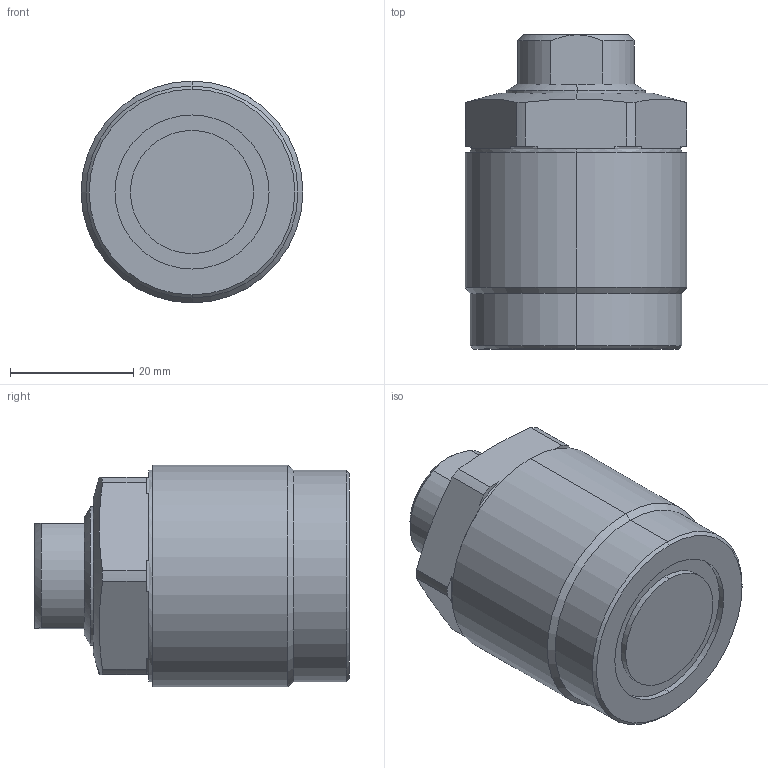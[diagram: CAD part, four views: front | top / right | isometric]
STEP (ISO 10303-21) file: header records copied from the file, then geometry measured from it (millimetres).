
FILE_DESCRIPTION (( 'STEP AP203' ), '1' );
FILE_NAME ('T03C-M364-S threaded pusher.STEP', '2022-07-09T17:42:46', ( '' ), ( '' ), 'SwSTEP 2.0', 'SolidWorks 2017', '' );
FILE_SCHEMA (( 'CONFIG_CONTROL_DESIGN' ));
Length unit declared in the file: millimetre
Products named in the file (3): T03C-M364-S part-1; T03C-M364-S part-2; T03C-M364-S threaded pusher
Assembly tree (2 placements, depth 2):
  T03C-M364-S threaded pusher
    T03C-M364-S part-1
    T03C-M364-S part-2
Bounding box: 36 x 51 x 36 mm (x, y, z)
Volume: 55528.6 mm3; surface area: 10648 mm2
Topology: 2 solids, 2 shells, 271 faces, 728 edges, 479 vertices
Faces by surface type: plane 130, bspline 100, cylinder 22, cone 19
Entity records: 13423 total; most frequent: CARTESIAN_POINT 7170, ORIENTED_EDGE 1452, DIRECTION 848, EDGE_CURVE 726, VERTEX_POINT 479, VECTOR 354, LINE 354, B_SPLINE_CURVE_WITH_KNOTS 301
